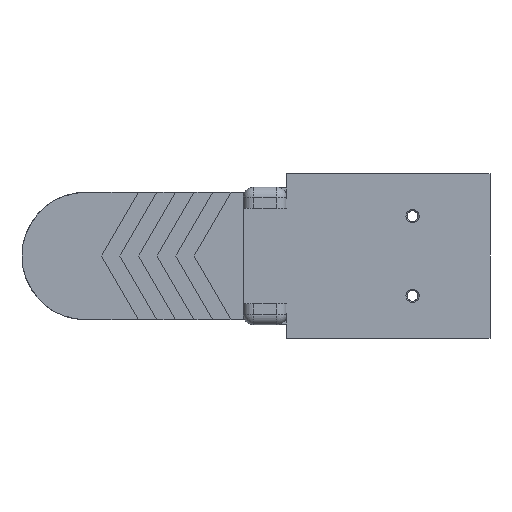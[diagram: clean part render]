
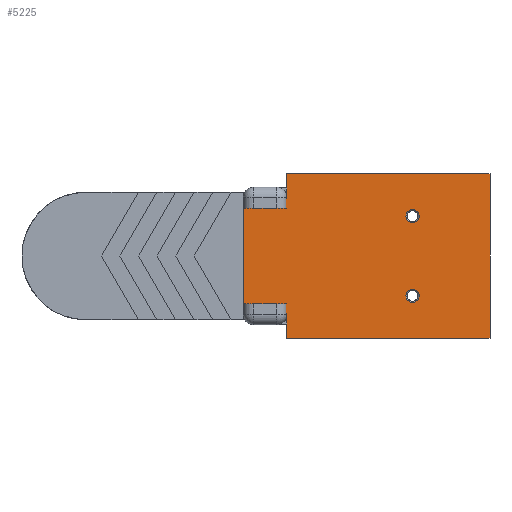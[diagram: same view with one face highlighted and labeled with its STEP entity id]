
A CAD part, front view. The second image highlights one B-rep face of the part: STEP entity #5225.
In plain terms, the highlighted planar face has unit normal (0, -1, 0).
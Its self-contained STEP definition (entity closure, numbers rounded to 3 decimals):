
#20 = CARTESIAN_POINT ( 'NONE',  ( -19., -5., 10.9 ) ) ;
#139 = CARTESIAN_POINT ( 'NONE',  ( -10.8, -5., 15.5 ) ) ;
#222 = AXIS2_PLACEMENT_3D ( 'NONE', #5925, #570, #6817 ) ;
#297 = DIRECTION ( 'NONE',  ( 0., 0., -1. ) ) ;
#451 = CIRCLE ( 'NONE', #9956, 1.25 ) ;
#530 = PLANE ( 'NONE',  #222 ) ;
#544 = ORIENTED_EDGE ( 'NONE', *, *, #10075, .T. ) ;
#570 = DIRECTION ( 'NONE',  ( 0., 1., 0. ) ) ;
#726 = VECTOR ( 'NONE', #6628, 1000. ) ;
#777 = VERTEX_POINT ( 'NONE', #3781 ) ;
#806 = VERTEX_POINT ( 'NONE', #6490 ) ;
#964 = CARTESIAN_POINT ( 'NONE',  ( -19., -5., 15.5 ) ) ;
#1071 = ORIENTED_EDGE ( 'NONE', *, *, #10720, .T. ) ;
#1111 = CARTESIAN_POINT ( 'NONE',  ( -10.8, -5., 15.5 ) ) ;
#1266 = LINE ( 'NONE', #139, #10510 ) ;
#1281 = VECTOR ( 'NONE', #297, 1000. ) ;
#1354 = AXIS2_PLACEMENT_3D ( 'NONE', #3986, #10264, #4900 ) ;
#1383 = EDGE_CURVE ( 'NONE', #806, #4325, #8860, .T. ) ;
#1572 = CARTESIAN_POINT ( 'NONE',  ( -10.8, -5., 10.9 ) ) ;
#1573 = LINE ( 'NONE', #1111, #1281 ) ;
#1713 = VECTOR ( 'NONE', #9268, 1000. ) ;
#1808 = CIRCLE ( 'NONE', #1354, 1.25 ) ;
#1818 = DIRECTION ( 'NONE',  ( 0., 1., 0. ) ) ;
#1824 = ORIENTED_EDGE ( 'NONE', *, *, #6548, .T. ) ;
#1893 = DIRECTION ( 'NONE',  ( 1., 0., 0. ) ) ;
#1899 = EDGE_CURVE ( 'NONE', #6327, #7071, #1573, .T. ) ;
#2187 = VECTOR ( 'NONE', #6055, 1000. ) ;
#2271 = VECTOR ( 'NONE', #1893, 1000. ) ;
#2335 = CARTESIAN_POINT ( 'NONE',  ( -19., -5., -10.9 ) ) ;
#2411 = EDGE_CURVE ( 'NONE', #2600, #9032, #1808, .T. ) ;
#2420 = DIRECTION ( 'NONE',  ( 0., 1., 0. ) ) ;
#2448 = FACE_OUTER_BOUND ( 'NONE', #5075, .T. ) ;
#2475 = ORIENTED_EDGE ( 'NONE', *, *, #6152, .F. ) ;
#2600 = VERTEX_POINT ( 'NONE', #6798 ) ;
#2660 = VERTEX_POINT ( 'NONE', #7849 ) ;
#2827 = DIRECTION ( 'NONE',  ( 0., 0., -1. ) ) ;
#3412 = CARTESIAN_POINT ( 'NONE',  ( 12.9, -5., -6.25 ) ) ;
#3681 = VERTEX_POINT ( 'NONE', #10165 ) ;
#3781 = CARTESIAN_POINT ( 'NONE',  ( 27.5, -5., 15.5 ) ) ;
#3828 = VERTEX_POINT ( 'NONE', #7745 ) ;
#3910 = ORIENTED_EDGE ( 'NONE', *, *, #1899, .T. ) ;
#3986 = CARTESIAN_POINT ( 'NONE',  ( 12.9, -5., 7.5 ) ) ;
#4097 = DIRECTION ( 'NONE',  ( 0., 0., -1. ) ) ;
#4281 = EDGE_CURVE ( 'NONE', #3681, #4325, #4711, .T. ) ;
#4320 = ORIENTED_EDGE ( 'NONE', *, *, #4882, .T. ) ;
#4325 = VERTEX_POINT ( 'NONE', #2335 ) ;
#4435 = EDGE_CURVE ( 'NONE', #3828, #2660, #6944, .T. ) ;
#4649 = LINE ( 'NONE', #964, #2271 ) ;
#4711 = LINE ( 'NONE', #8571, #9198 ) ;
#4798 = ORIENTED_EDGE ( 'NONE', *, *, #6482, .F. ) ;
#4832 = FACE_BOUND ( 'NONE', #8955, .T. ) ;
#4856 = AXIS2_PLACEMENT_3D ( 'NONE', #7180, #1818, #8072 ) ;
#4882 = EDGE_CURVE ( 'NONE', #8891, #8470, #8883, .T. ) ;
#4900 = DIRECTION ( 'NONE',  ( 0., 0., 1. ) ) ;
#5026 = CARTESIAN_POINT ( 'NONE',  ( -10.8, -5., 15.5 ) ) ;
#5075 = EDGE_LOOP ( 'NONE', ( #5500, #1824, #6408, #2475, #8387, #3910, #4798, #7870 ) ) ;
#5225 = ADVANCED_FACE ( 'NONE', ( #7214, #4832, #2448 ), #530, .F. ) ;
#5254 = CARTESIAN_POINT ( 'NONE',  ( 12.9, -5., -7.5 ) ) ;
#5490 = LINE ( 'NONE', #5722, #726 ) ;
#5500 = ORIENTED_EDGE ( 'NONE', *, *, #1383, .F. ) ;
#5686 = CARTESIAN_POINT ( 'NONE',  ( 12.9, -5., -8.75 ) ) ;
#5722 = CARTESIAN_POINT ( 'NONE',  ( 27.5, -5., 15.5 ) ) ;
#5846 = EDGE_CURVE ( 'NONE', #6327, #777, #4649, .T. ) ;
#5925 = CARTESIAN_POINT ( 'NONE',  ( -19., -5., 15.5 ) ) ;
#6055 = DIRECTION ( 'NONE',  ( 1., 0., 0. ) ) ;
#6152 = EDGE_CURVE ( 'NONE', #777, #2660, #5490, .T. ) ;
#6155 = DIRECTION ( 'NONE',  ( 0., 0., 1. ) ) ;
#6327 = VERTEX_POINT ( 'NONE', #5026 ) ;
#6408 = ORIENTED_EDGE ( 'NONE', *, *, #4435, .T. ) ;
#6482 = EDGE_CURVE ( 'NONE', #3681, #7071, #8265, .T. ) ;
#6490 = CARTESIAN_POINT ( 'NONE',  ( -10.8, -5., -10.9 ) ) ;
#6548 = EDGE_CURVE ( 'NONE', #806, #3828, #1266, .T. ) ;
#6570 = AXIS2_PLACEMENT_3D ( 'NONE', #5254, #11516, #6155 ) ;
#6628 = DIRECTION ( 'NONE',  ( 0., 0., -1. ) ) ;
#6798 = CARTESIAN_POINT ( 'NONE',  ( 12.9, -5., 6.25 ) ) ;
#6817 = DIRECTION ( 'NONE',  ( 0., 0., 1. ) ) ;
#6944 = LINE ( 'NONE', #11424, #2187 ) ;
#7071 = VERTEX_POINT ( 'NONE', #1572 ) ;
#7180 = CARTESIAN_POINT ( 'NONE',  ( 12.9, -5., -7.5 ) ) ;
#7214 = FACE_BOUND ( 'NONE', #8270, .T. ) ;
#7745 = CARTESIAN_POINT ( 'NONE',  ( -10.8, -5., -15.5 ) ) ;
#7772 = CARTESIAN_POINT ( 'NONE',  ( 12.9, -5., 7.5 ) ) ;
#7849 = CARTESIAN_POINT ( 'NONE',  ( 27.5, -5., -15.5 ) ) ;
#7870 = ORIENTED_EDGE ( 'NONE', *, *, #4281, .T. ) ;
#7980 = VECTOR ( 'NONE', #10727, 1000. ) ;
#8072 = DIRECTION ( 'NONE',  ( 0., 0., 1. ) ) ;
#8265 = LINE ( 'NONE', #20, #7980 ) ;
#8270 = EDGE_LOOP ( 'NONE', ( #1071, #4320 ) ) ;
#8344 = CARTESIAN_POINT ( 'NONE',  ( -19., -5., -10.9 ) ) ;
#8387 = ORIENTED_EDGE ( 'NONE', *, *, #5846, .F. ) ;
#8470 = VERTEX_POINT ( 'NONE', #3412 ) ;
#8523 = CIRCLE ( 'NONE', #6570, 1.25 ) ;
#8571 = CARTESIAN_POINT ( 'NONE',  ( -19., -5., 15.5 ) ) ;
#8687 = DIRECTION ( 'NONE',  ( 0., 0., 1. ) ) ;
#8710 = ORIENTED_EDGE ( 'NONE', *, *, #2411, .T. ) ;
#8860 = LINE ( 'NONE', #8344, #1713 ) ;
#8883 = CIRCLE ( 'NONE', #4856, 1.25 ) ;
#8891 = VERTEX_POINT ( 'NONE', #5686 ) ;
#8955 = EDGE_LOOP ( 'NONE', ( #544, #8710 ) ) ;
#9032 = VERTEX_POINT ( 'NONE', #10389 ) ;
#9198 = VECTOR ( 'NONE', #4097, 1000. ) ;
#9268 = DIRECTION ( 'NONE',  ( -1., 0., 0. ) ) ;
#9956 = AXIS2_PLACEMENT_3D ( 'NONE', #7772, #2420, #8687 ) ;
#10075 = EDGE_CURVE ( 'NONE', #9032, #2600, #451, .T. ) ;
#10165 = CARTESIAN_POINT ( 'NONE',  ( -19., -5., 10.9 ) ) ;
#10264 = DIRECTION ( 'NONE',  ( 0., 1., 0. ) ) ;
#10389 = CARTESIAN_POINT ( 'NONE',  ( 12.9, -5., 8.75 ) ) ;
#10510 = VECTOR ( 'NONE', #2827, 1000. ) ;
#10720 = EDGE_CURVE ( 'NONE', #8470, #8891, #8523, .T. ) ;
#10727 = DIRECTION ( 'NONE',  ( 1., 0., 0. ) ) ;
#11424 = CARTESIAN_POINT ( 'NONE',  ( -19., -5., -15.5 ) ) ;
#11516 = DIRECTION ( 'NONE',  ( 0., 1., 0. ) ) ;
